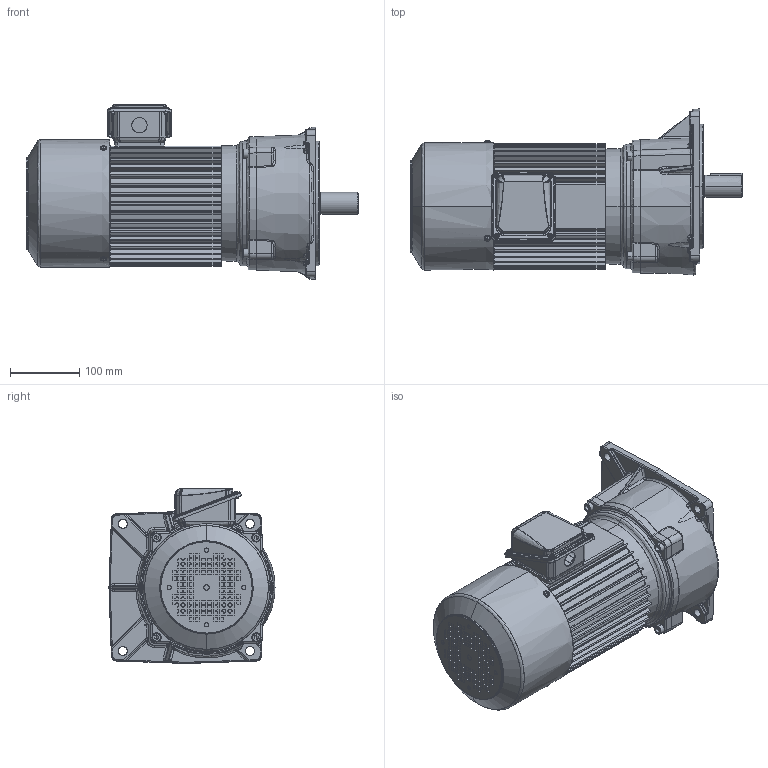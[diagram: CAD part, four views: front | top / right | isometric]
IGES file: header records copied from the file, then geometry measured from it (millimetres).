
Start section: SolidWorks IGES file using analytic representation for surfaces
Global section: file name: \\100.100.100.8\1_共有作業フォルダ\1-5_３Ｄデータ\solidworks\personal-folder\H.Nagayama\SGP1外形075~370\P1(3D)_075~370\igs\TMFB2-15-(5~25).IGS; native system: SolidWorks 2018; preprocessor: SolidWorks 2018; author: sigma-giken; date: 200806.160904; units: millimetre
Bounding box: 480 x 240.19 x 253 mm (x, y, z)
Surface area: 678010.1 mm2 (no closed solid volume)
Topology: 0 solids, 0 shells, 2454 faces, 26684 edges, 26646 vertices
Faces by surface type: bspline 1326, revolution 1128
